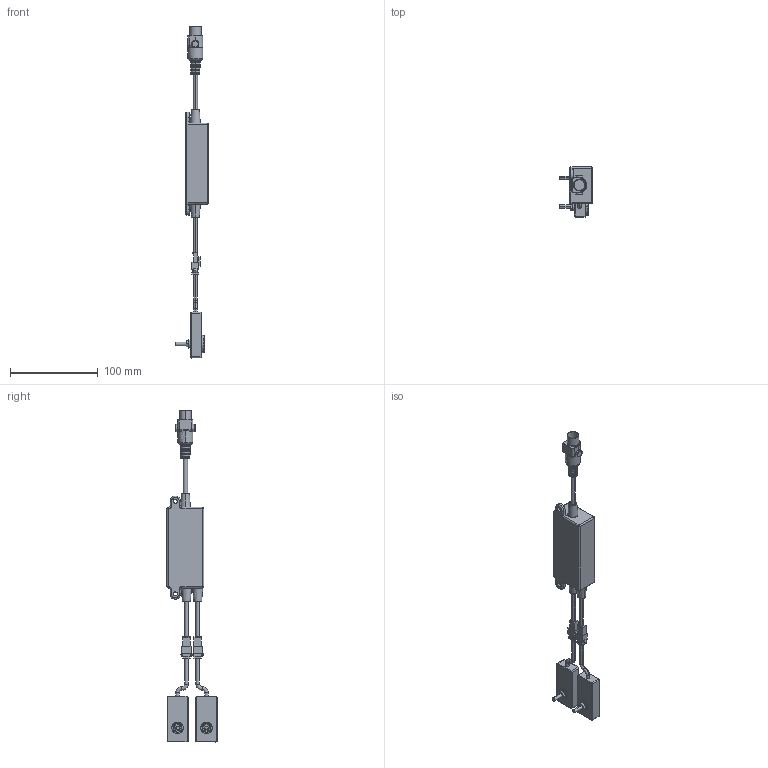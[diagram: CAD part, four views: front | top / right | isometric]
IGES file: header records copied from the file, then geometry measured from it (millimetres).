
Start section: SolidWorks IGES file using analytic representation for surfaces
Global section: file name: C:\Users\USER\Desktop\tpsl.IGS; native system: SolidWorks 2020; preprocessor: SolidWorks 2020; author: USER; date: 220824.160539; units: millimetre
Bounding box: 37.6 x 57 x 378.1 mm (x, y, z)
Surface area: 34900.4 mm2 (no closed solid volume)
Topology: 0 solids, 0 shells, 362 faces, 3919 edges, 3919 vertices
Faces by surface type: bspline 231, revolution 131
